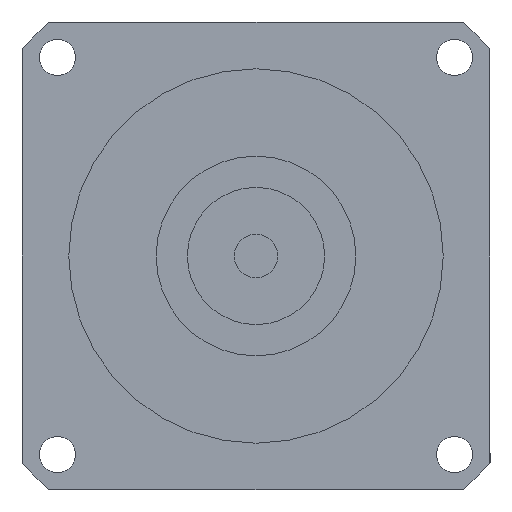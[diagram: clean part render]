
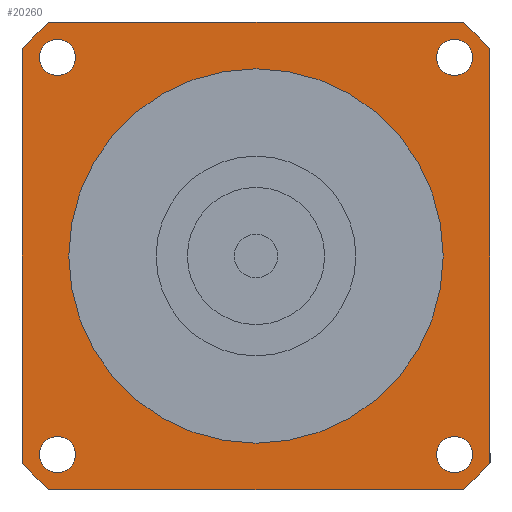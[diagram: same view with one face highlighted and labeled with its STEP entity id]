
A CAD part, left-side view. The second image highlights one B-rep face of the part: STEP entity #20260.
In plain terms, the highlighted planar face has unit normal (-1, 0, 0) as drawn and (0, 0, -1) by its records, which use the part's own axes.
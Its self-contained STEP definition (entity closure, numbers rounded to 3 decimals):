
#11110=CARTESIAN_POINT('',(-37.5,-33.072,-60.));
#11120=VERTEX_POINT('',#11110);
#11280=CARTESIAN_POINT('',(-33.072,-37.5,-60.));
#11290=VERTEX_POINT('',#11280);
#11320=CARTESIAN_POINT('',(0.,0.,
-60.));
#11330=DIRECTION('',(0.,0.,1.));
#11340=DIRECTION('',(0.,-1.,0.));
#11350=AXIS2_PLACEMENT_3D('',#11320,#11330,#11340);
#11360=CIRCLE('',#11350,50.);
#11370=EDGE_CURVE('',#11120,#11290,#11360,.T.);
#12870=CARTESIAN_POINT('',(-37.5,33.072,-60.));
#12880=VERTEX_POINT('',#12870);
#12980=CARTESIAN_POINT('',(-37.5,37.5,-60.));
#12990=DIRECTION('',(0.,-1.,0.));
#13000=VECTOR('',#12990,1000.);
#13010=LINE('',#12980,#13000);
#13020=EDGE_CURVE('',#12880,#11120,#13010,.T.);
#17850=CARTESIAN_POINT('',(-33.072,37.5,-60.));
#17860=VERTEX_POINT('',#17850);
#17910=CARTESIAN_POINT('',(0.,0.,
-60.));
#17920=DIRECTION('',(0.,0.,1.));
#17930=DIRECTION('',(0.,-1.,0.));
#17940=AXIS2_PLACEMENT_3D('',#17910,#17920,#17930);
#17950=CIRCLE('',#17940,50.);
#17960=EDGE_CURVE('',#17860,#12880,#17950,.T.);
#18100=CARTESIAN_POINT('',(33.072,37.5,-60.));
#18110=VERTEX_POINT('',#18100);
#18160=CARTESIAN_POINT('',(37.5,37.5,-60.));
#18170=DIRECTION('',(-1.,0.,0.));
#18180=VECTOR('',#18170,1000.);
#18190=LINE('',#18160,#18180);
#18200=EDGE_CURVE('',#18110,#17860,#18190,.T.);
#18310=CARTESIAN_POINT('',(0.,0.,
-60.));
#18320=DIRECTION('',(0.,0.,1.));
#18330=DIRECTION('',(0.,-1.,0.));
#18340=AXIS2_PLACEMENT_3D('',#18310,#18320,#18330);
#18350=CIRCLE('',#18340,50.);
#18360=CARTESIAN_POINT('',(37.5,33.072,-60.));
#18370=VERTEX_POINT('',#18360);
#18380=EDGE_CURVE('',#18370,#18110,#18350,.T.);
#18590=CARTESIAN_POINT('',(37.5,-33.072,-60.));
#18600=VERTEX_POINT('',#18590);
#18650=CARTESIAN_POINT('',(37.5,-37.5,-60.));
#18660=DIRECTION('',(0.,1.,0.));
#18670=VECTOR('',#18660,1000.);
#18680=LINE('',#18650,#18670);
#18690=EDGE_CURVE('',#18600,#18370,#18680,.T.);
#18830=CARTESIAN_POINT('',(33.072,-37.5,-60.));
#18840=VERTEX_POINT('',#18830);
#18890=CARTESIAN_POINT('',(0.,0.,
-60.));
#18900=DIRECTION('',(0.,0.,1.));
#18910=DIRECTION('',(0.,-1.,0.));
#18920=AXIS2_PLACEMENT_3D('',#18890,#18900,#18910);
#18930=CIRCLE('',#18920,50.);
#18940=EDGE_CURVE('',#18840,#18600,#18930,.T.);
#19070=CARTESIAN_POINT('',(-37.5,-37.5,-60.));
#19080=DIRECTION('',(1.,0.,0.));
#19090=VECTOR('',#19080,1000.);
#19100=LINE('',#19070,#19090);
#19110=EDGE_CURVE('',#11290,#18840,#19100,.T.);
#19160=CARTESIAN_POINT('',(-37.5,37.5,-60.));
#19170=DIRECTION('',(0.,0.,1.));
#19180=DIRECTION('',(-1.,0.,0.));
#19190=AXIS2_PLACEMENT_3D('',#19160,#19170,#19180);
#19200=PLANE('',#19190);
#19210=CARTESIAN_POINT('',(31.82,-31.82,-60.));
#19220=DIRECTION('',(0.,0.,-1.));
#19230=DIRECTION('',(1.,0.,0.));
#19240=AXIS2_PLACEMENT_3D('',#19210,#19220,#19230);
#19250=CIRCLE('',#19240,2.9);
#19260=CARTESIAN_POINT('',(34.72,-31.82,-60.));
#19270=VERTEX_POINT('',#19260);
#19280=CARTESIAN_POINT('',(31.82,-34.72,-60.));
#19290=VERTEX_POINT('',#19280);
#19300=EDGE_CURVE('',#19270,#19290,#19250,.T.);
#19310=ORIENTED_EDGE('',*,*,#19300,.F.);
#19320=CARTESIAN_POINT('',(31.82,-28.92,-60.));
#19330=VERTEX_POINT('',#19320);
#19340=EDGE_CURVE('',#19290,#19330,#19250,.T.);
#19350=ORIENTED_EDGE('',*,*,#19340,.F.);
#19360=EDGE_CURVE('',#19330,#19270,#19250,.T.);
#19370=ORIENTED_EDGE('',*,*,#19360,.F.);
#19380=EDGE_LOOP('',(#19370,#19350,#19310));
#19390=FACE_BOUND('',#19380,.T.);
#19400=CARTESIAN_POINT('',(31.82,31.82,-60.));
#19410=DIRECTION('',(0.,0.,-1.));
#19420=DIRECTION('',(0.,1.,0.));
#19430=AXIS2_PLACEMENT_3D('',#19400,#19410,#19420);
#19440=CIRCLE('',#19430,2.9);
#19450=CARTESIAN_POINT('',(31.82,34.72,-60.));
#19460=VERTEX_POINT('',#19450);
#19470=CARTESIAN_POINT('',(34.72,31.82,-60.));
#19480=VERTEX_POINT('',#19470);
#19490=EDGE_CURVE('',#19460,#19480,#19440,.T.);
#19500=ORIENTED_EDGE('',*,*,#19490,.F.);
#19510=CARTESIAN_POINT('',(28.92,31.82,-60.));
#19520=VERTEX_POINT('',#19510);
#19530=EDGE_CURVE('',#19480,#19520,#19440,.T.);
#19540=ORIENTED_EDGE('',*,*,#19530,.F.);
#19550=EDGE_CURVE('',#19520,#19460,#19440,.T.);
#19560=ORIENTED_EDGE('',*,*,#19550,.F.);
#19570=EDGE_LOOP('',(#19560,#19540,#19500));
#19580=FACE_BOUND('',#19570,.T.);
#19590=CARTESIAN_POINT('',(-31.82,31.82,-60.));
#19600=DIRECTION('',(0.,0.,-1.));
#19610=DIRECTION('',(-1.,0.,0.));
#19620=AXIS2_PLACEMENT_3D('',#19590,#19600,#19610);
#19630=CIRCLE('',#19620,2.9);
#19640=CARTESIAN_POINT('',(-34.72,31.82,-60.));
#19650=VERTEX_POINT('',#19640);
#19660=CARTESIAN_POINT('',(-31.82,34.72,-60.));
#19670=VERTEX_POINT('',#19660);
#19680=EDGE_CURVE('',#19650,#19670,#19630,.T.);
#19690=ORIENTED_EDGE('',*,*,#19680,.F.);
#19700=CARTESIAN_POINT('',(-31.82,28.92,-60.));
#19710=VERTEX_POINT('',#19700);
#19720=EDGE_CURVE('',#19670,#19710,#19630,.T.);
#19730=ORIENTED_EDGE('',*,*,#19720,.F.);
#19740=EDGE_CURVE('',#19710,#19650,#19630,.T.);
#19750=ORIENTED_EDGE('',*,*,#19740,.F.);
#19760=EDGE_LOOP('',(#19750,#19730,#19690));
#19770=FACE_BOUND('',#19760,.T.);
#19780=CARTESIAN_POINT('',(-31.82,-31.82,-60.));
#19790=DIRECTION('',(0.,0.,-1.));
#19800=DIRECTION('',(0.,-1.,0.));
#19810=AXIS2_PLACEMENT_3D('',#19780,#19790,#19800);
#19820=CIRCLE('',#19810,2.9);
#19830=CARTESIAN_POINT('',(-31.82,-34.72,-60.));
#19840=VERTEX_POINT('',#19830);
#19850=CARTESIAN_POINT('',(-34.72,-31.82,-60.));
#19860=VERTEX_POINT('',#19850);
#19870=EDGE_CURVE('',#19840,#19860,#19820,.T.);
#19880=ORIENTED_EDGE('',*,*,#19870,.F.);
#19890=CARTESIAN_POINT('',(-28.92,-31.82,-60.));
#19900=VERTEX_POINT('',#19890);
#19910=EDGE_CURVE('',#19860,#19900,#19820,.T.);
#19920=ORIENTED_EDGE('',*,*,#19910,.F.);
#19930=EDGE_CURVE('',#19900,#19840,#19820,.T.);
#19940=ORIENTED_EDGE('',*,*,#19930,.F.);
#19950=EDGE_LOOP('',(#19940,#19920,#19880));
#19960=FACE_BOUND('',#19950,.T.);
#19970=ORIENTED_EDGE('',*,*,#11370,.F.);
#19980=ORIENTED_EDGE('',*,*,#19110,.F.);
#19990=ORIENTED_EDGE('',*,*,#18940,.F.);
#20000=ORIENTED_EDGE('',*,*,#18690,.F.);
#20010=ORIENTED_EDGE('',*,*,#18380,.F.);
#20020=ORIENTED_EDGE('',*,*,#18200,.F.);
#20030=ORIENTED_EDGE('',*,*,#17960,.F.);
#20040=ORIENTED_EDGE('',*,*,#13020,.F.);
#20050=EDGE_LOOP('',(#20040,#20030,#20020,#20010,#20000,#19990,#19980,
#19970));
#20060=FACE_OUTER_BOUND('',#20050,.T.);
#20070=CARTESIAN_POINT('',(0.,0.,
-60.));
#20080=DIRECTION('',(0.,0.,1.));
#20090=DIRECTION('',(0.,-1.,0.));
#20100=AXIS2_PLACEMENT_3D('',#20070,#20080,#20090);
#20110=CIRCLE('',#20100,30.);
#20120=CARTESIAN_POINT('',(30.,0.,-60.));
#20130=VERTEX_POINT('',#20120);
#20140=CARTESIAN_POINT('',(-30.,0.,-60.));
#20150=VERTEX_POINT('',#20140);
#20160=EDGE_CURVE('',#20130,#20150,#20110,.T.);
#20170=ORIENTED_EDGE('',*,*,#20160,.T.);
#20180=CARTESIAN_POINT('',(0.,-30.,-60.));
#20190=VERTEX_POINT('',#20180);
#20200=EDGE_CURVE('',#20190,#20130,#20110,.T.);
#20210=ORIENTED_EDGE('',*,*,#20200,.T.);
#20220=EDGE_CURVE('',#20150,#20190,#20110,.T.);
#20230=ORIENTED_EDGE('',*,*,#20220,.T.);
#20240=EDGE_LOOP('',(#20230,#20210,#20170));
#20250=FACE_BOUND('',#20240,.T.);
#20260=ADVANCED_FACE('',(#19390,#19580,#19770,#19960,#20060,#20250),
#19200,.F.);
